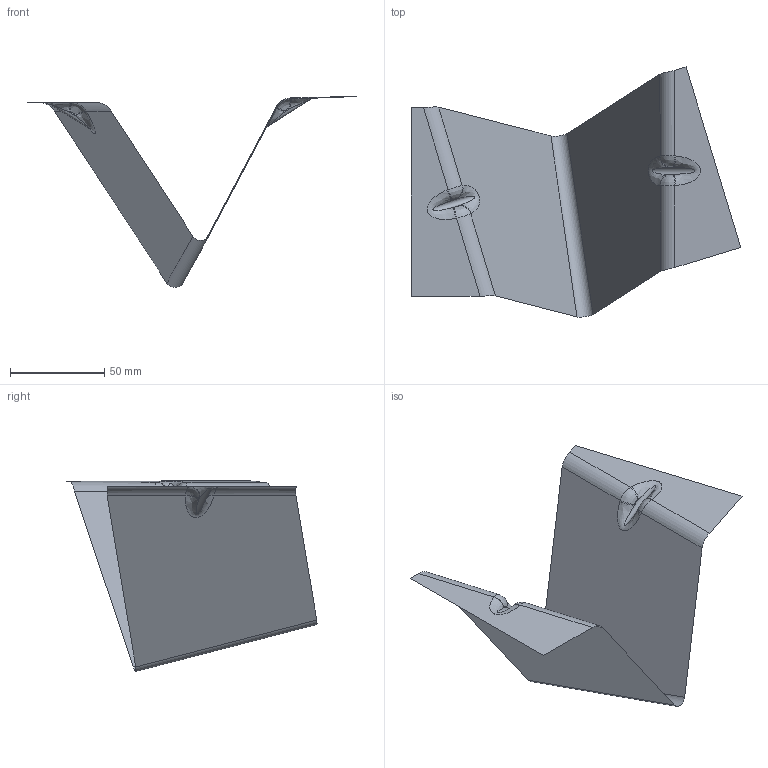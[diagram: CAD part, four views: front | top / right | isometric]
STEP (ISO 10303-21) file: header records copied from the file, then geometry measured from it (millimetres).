
FILE_DESCRIPTION(('CATIA V5 STEP Exchange'),'2;1');
FILE_NAME('C:\_Andres\UNIVERSIDAD\IQS\ASIGNATURAS\DAO\EXF\EXF-16172c\2inicio\Salazar_Martin_Ej03_v30.stp','2017-03-05T19:32:30+00:00',('none'),('none'),'CATIA Version 5-6 Release 2014 SP1 HF18','CATIA V5 STEP AP203','none');
FILE_SCHEMA(('CONFIG_CONTROL_DESIGN'));
Length unit declared in the file: millimetre
Products named in the file (1): Salazar_Martin_Ej03_v30
Bounding box: 174.56 x 132.43 x 101.15 mm (x, y, z)
Surface area: 26424.6 mm2 (no closed solid volume)
Topology: 0 solids, 1 shells, 31 faces, 78 edges, 48 vertices
Faces by surface type: cylinder 15, plane 8, bspline 8
Entity records: 2527 total; most frequent: CARTESIAN_POINT 1854, ORIENTED_EDGE 140, DIRECTION 90, EDGE_CURVE 78, VERTEX_POINT 48, VECTOR 40, LINE 40, ADVANCED_FACE 31
